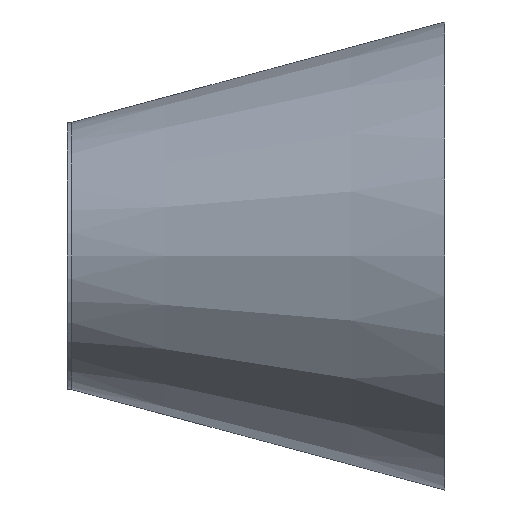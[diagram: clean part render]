
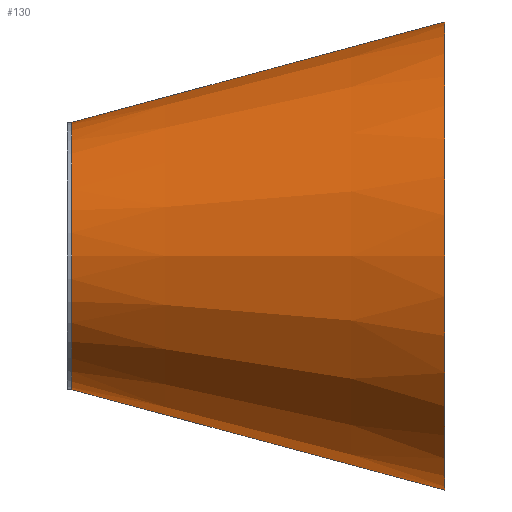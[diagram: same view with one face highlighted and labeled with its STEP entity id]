
A CAD part, left-side view. The second image highlights one B-rep face of the part: STEP entity #130.
In plain terms, the highlighted conical face has half-angle 15.068 degrees and reference radius 64 mm.
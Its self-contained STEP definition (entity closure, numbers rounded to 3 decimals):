
#130=ADVANCED_FACE('',(#219,#221),#223,.T.);
#219=FACE_OUTER_BOUND('',#220,.T.);
#220=EDGE_LOOP('',(#248));
#221=FACE_OUTER_BOUND('',#222,.T.);
#222=EDGE_LOOP('',(#249));
#223=CONICAL_SURFACE('',#224,64.,0.263);
#224=AXIS2_PLACEMENT_3D('',#225,#226,#227);
#225=CARTESIAN_POINT('',(0.,-69.,0.));
#226=DIRECTION('',(-0.,-1.,-0.));
#227=DIRECTION('',(1.,-0.,-0.));
#248=ORIENTED_EDGE('',*,*,#259,.F.);
#249=ORIENTED_EDGE('',*,*,#260,.T.);
#259=EDGE_CURVE('',#279,#279,#280,.T.);
#260=EDGE_CURVE('',#281,#281,#282,.T.);
#279=VERTEX_POINT('',#328);
#280=CIRCLE('',#329,46.5);
#281=VERTEX_POINT('',#333);
#282=CIRCLE('',#334,81.5);
#328=CARTESIAN_POINT('',(-46.5,-4.,0.));
#329=AXIS2_PLACEMENT_3D('',#330,#331,#332);
#330=CARTESIAN_POINT('',(0.,-4.,0.));
#331=DIRECTION('',(0.,1.,0.));
#332=DIRECTION('',(-1.,0.,0.));
#333=CARTESIAN_POINT('',(-81.5,-134.,0.));
#334=AXIS2_PLACEMENT_3D('',#335,#336,#337);
#335=CARTESIAN_POINT('',(0.,-134.,0.));
#336=DIRECTION('',(0.,1.,0.));
#337=DIRECTION('',(-1.,0.,0.));
